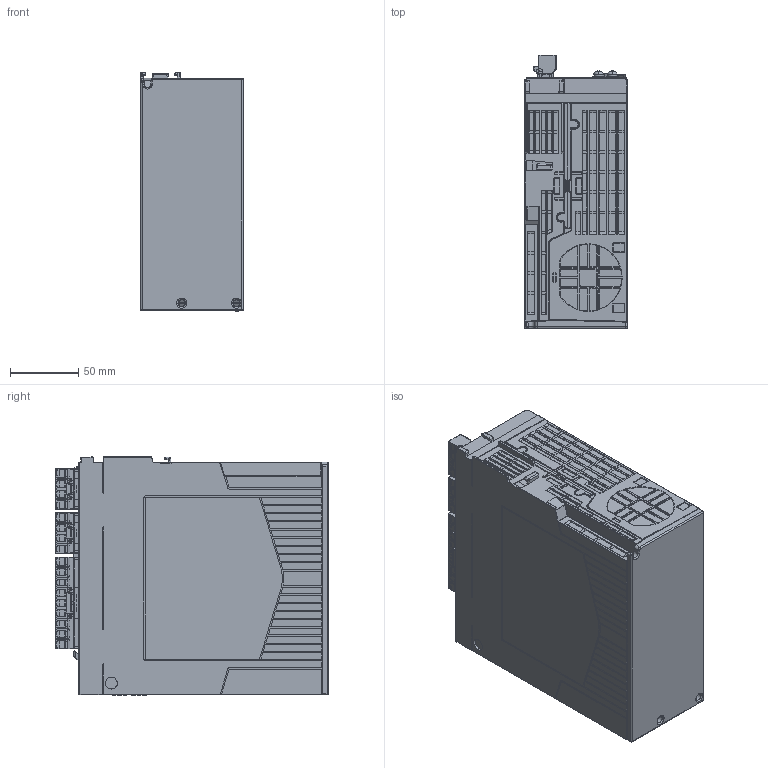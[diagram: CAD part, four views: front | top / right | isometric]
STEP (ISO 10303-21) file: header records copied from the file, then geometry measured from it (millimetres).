
FILE_DESCRIPTION((''),'2;1');
FILE_NAME('SV660NDS5R5I_ASM_4_ASM_1_ASM','2023-02-08T',('10009991'),(''),'CREO PARAMETRIC BY PTC INC, 2015290','CREO PARAMETRIC BY PTC INC, 2015290','');
FILE_SCHEMA(('AP203_CONFIGURATION_CONTROLLED_3D_DESIGN_OF_MECHANICAL_PARTS_AND_ASSEMBLIES_MIM_LF { 1 0 10303 403 2 1 2 }'));
Products named in the file (4): SV660NDS5R5I_4_1; 9EDGK-7_5-09P_20180409_2; 9EDGK-7_5-04P_20180409_2; SV660NDS5R5I_ASM_4_ASM_1_ASM
Assembly tree (4 placements, depth 2):
  SV660NDS5R5I_ASM_4_ASM_1_ASM
    SV660NDS5R5I_4_1
    9EDGK-7_5-09P_20180409_2
    9EDGK-7_5-04P_20180409_2  x2
Bounding box: 75.14 x 199.5 x 174.5 mm (x, y, z)
Volume: 2305713.3 mm3; surface area: 166577.2 mm2
Topology: 4 solids, 16 shells, 7527 faces, 20156 edges, 12753 vertices
Faces by surface type: plane 5148, cylinder 1576, bspline 274, cone 227, torus 113, sphere 104, extrusion 85
Entity records: 246924 total; most frequent: CARTESIAN_POINT 60551, ORIENTED_EDGE 36560, DIRECTION 32021, EDGE_CURVE 18280, VECTOR 13963, LINE 13878, VERTEX_POINT 11612, AXIS2_PLACEMENT_3D 9029
